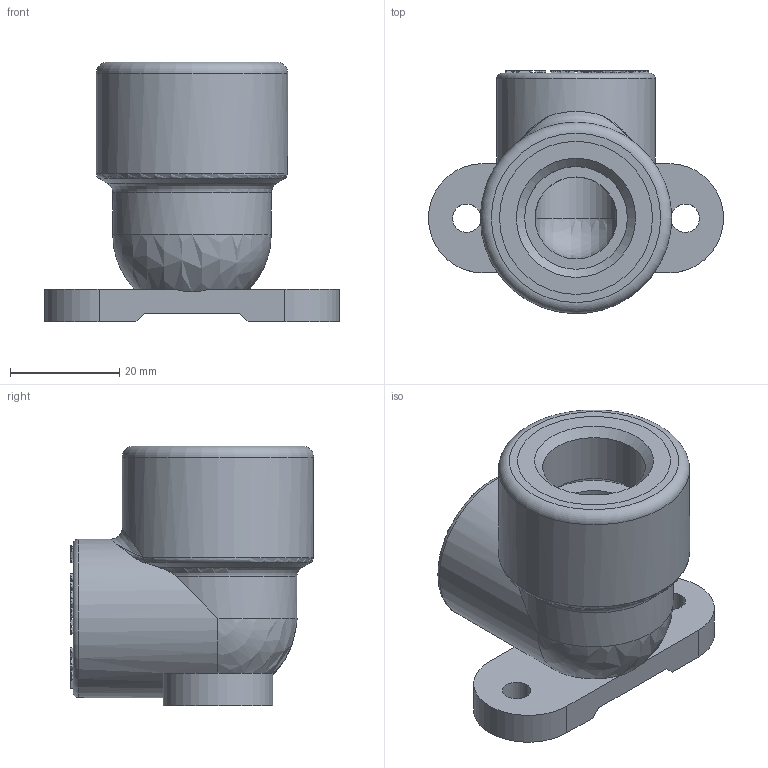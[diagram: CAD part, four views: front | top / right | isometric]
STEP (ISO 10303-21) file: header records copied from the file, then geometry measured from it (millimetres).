
FILE_DESCRIPTION(('STEP AP203'), '1');
FILE_NAME('ÂÐ.731244.027 - VTp.754.0.02004', '', ('UNSPECIFIED'), ('UNSPECIFIED'), 'C3D Converter', 'C3D Toolkit', '');
FILE_SCHEMA(('CONFIG_CONTROL_DESIGN'));
Length unit declared in the file: millimetre
Products named in the file (4): ВР.731244.027; ВР.302639.014.000; ВР.713661.001
Assembly tree (3 placements, depth 3):
  ВР.731244.027
    ВР.302639.014.000
      ВР.713661.001
      (unnamed)
Bounding box: 54 x 44.5 x 47.5 mm (x, y, z)
Volume: 34853.5 mm3; surface area: 18673.4 mm2
Topology: 3 solids, 3 shells, 753 faces, 2046 edges, 1359 vertices
Faces by surface type: extrusion 373, plane 307, cylinder 54, torus 10, cone 4, bspline 3, sphere 2
Full cylindrical faces by diameter (mm): 5.2 x2, 15 x2, 18.8 x1, 21.5 x2, 24 x8, 28 x10, 29 x1, 35 x1
Entity records: 24927 total; most frequent: CARTESIAN_POINT 7235, ORIENTED_EDGE 3996, DIRECTION 2506, EDGE_CURVE 1998, VECTOR 1478, VERTEX_POINT 1352, B_SPLINE_CURVE_WITH_KNOTS 1134, LINE 1105
